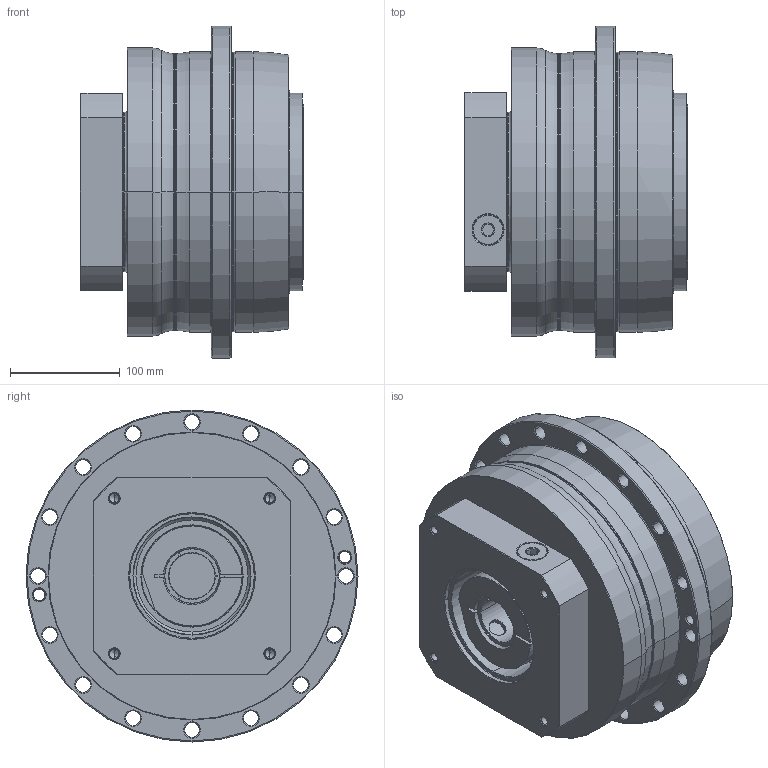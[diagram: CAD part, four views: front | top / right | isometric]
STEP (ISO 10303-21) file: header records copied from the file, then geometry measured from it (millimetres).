
FILE_DESCRIPTION((''),'2;1');
FILE_NAME('AH255_1ST_42-P0409A00101_ASM','2016-10-05T',('d00435'),(''),'PRO/ENGINEER BY PARAMETRIC TECHNOLOGY CORPORATION, 2008410','PRO/ENGINEER BY PARAMETRIC TECHNOLOGY CORPORATION, 2008410','');
FILE_SCHEMA(('CONFIG_CONTROL_DESIGN'));
Length unit declared in the file: millimetre
Products named in the file (8): P0278700003; P0359700003; P1318700201; P0409A00101; P0503A00012; P0912702201; 21711422019; AH255_1ST_42-P0409A00101_ASM
Assembly tree (7 placements, depth 2):
  AH255_1ST_42-P0409A00101_ASM
    P0278700003
    P0359700003
    P1318700201
    P0409A00101
    P0503A00012
    P0912702201
    21711422019
Bounding box: 203 x 302 x 302 mm (x, y, z)
Volume: 9134555.7 mm3; surface area: 716944.3 mm2
Topology: 8 solids, 34 shells, 652 faces, 1539 edges, 929 vertices
Faces by surface type: cylinder 270, cone 192, plane 116, torus 60, bspline 14
Entity records: 23286 total; most frequent: CARTESIAN_POINT 7820, DIRECTION 3555, ORIENTED_EDGE 2882, AXIS2_PLACEMENT_3D 1511, EDGE_CURVE 1493, VERTEX_POINT 929, CIRCLE 846, EDGE_LOOP 774
